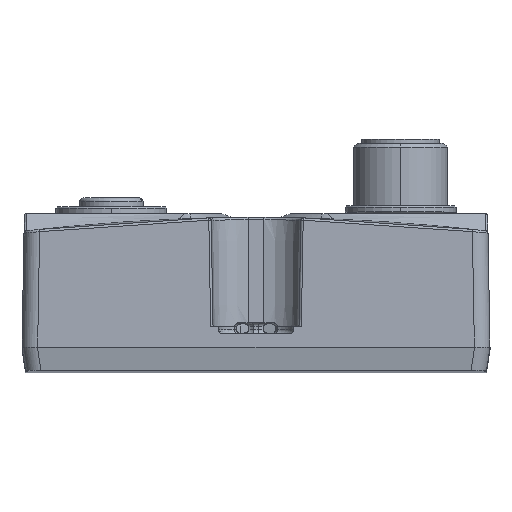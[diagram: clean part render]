
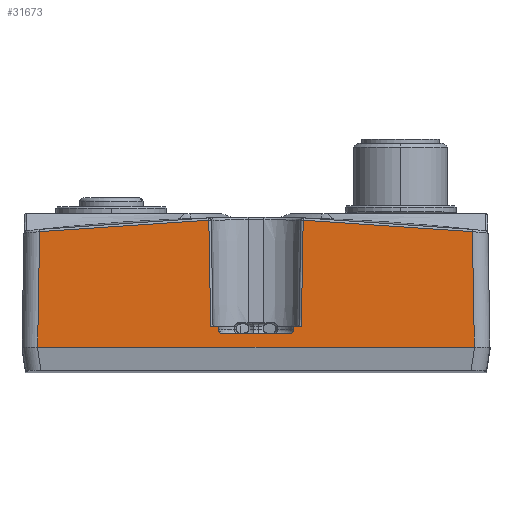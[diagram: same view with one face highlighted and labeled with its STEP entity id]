
A CAD part, top view. The second image highlights one B-rep face of the part: STEP entity #31673.
In plain terms, the highlighted planar face has unit normal (0, 0.018, 1).
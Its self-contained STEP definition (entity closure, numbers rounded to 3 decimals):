
#1816=CARTESIAN_POINT('',(27.691,-2.335,14.69));
#1854=CARTESIAN_POINT('',(5.8,-14.5,14.903));
#2453=CARTESIAN_POINT('',(27.691,-2.335,14.69));
#2454=CARTESIAN_POINT('',(25.893,-2.134,14.687));
#2455=CARTESIAN_POINT('',(22.293,-1.772,14.68));
#2456=CARTESIAN_POINT('',(16.881,-1.346,14.673));
#2457=CARTESIAN_POINT('',(11.462,-1.038,14.668));
#2458=CARTESIAN_POINT('',(7.846,-0.912,
14.665));
#2459=CARTESIAN_POINT('',(6.038,-0.868,
14.665));
#2464=DIRECTION('',(-0.017,1.,-0.017));
#2465=VECTOR('',#2464,14.77);
#2466=CARTESIAN_POINT('',(27.948,-17.1,14.948));
#2467=LINE('',#2466,#2465);
#2471=DIRECTION('',(-0.017,-1.,0.017));
#2472=VECTOR('',#2471,14.77);
#2473=CARTESIAN_POINT('',(-27.691,-2.335,
14.69));
#2474=LINE('',#2473,#2472);
#2478=CARTESIAN_POINT('',(-6.038,-0.868,
14.665));
#2479=CARTESIAN_POINT('',(-7.846,-0.912,
14.665));
#2480=CARTESIAN_POINT('',(-11.462,-1.038,
14.668));
#2481=CARTESIAN_POINT('',(-16.881,-1.346,
14.673));
#2482=CARTESIAN_POINT('',(-22.293,-1.772,
14.68));
#2483=CARTESIAN_POINT('',(-25.893,-2.134,
14.687));
#2484=CARTESIAN_POINT('',(-27.691,-2.335,
14.69));
#2489=DIRECTION('',(-0.017,1.,-0.017));
#2490=VECTOR('',#2489,13.636);
#2491=CARTESIAN_POINT('',(-5.8,-14.5,
14.903));
#2492=LINE('',#2491,#2490);
#2496=DIRECTION('',(-1.,0.,0.));
#2497=VECTOR('',#2496,1.);
#2498=CARTESIAN_POINT('',(-4.8,-14.5,14.903));
#2499=LINE('',#2498,#2497);
#2503=CARTESIAN_POINT('',(-4.654,-15.254,
14.916));
#2504=CARTESIAN_POINT('',(-4.702,-15.205,
14.915));
#2505=CARTESIAN_POINT('',(-4.773,-15.096,
14.913));
#2506=CARTESIAN_POINT('',(-4.8,-14.969,14.911));
#2507=CARTESIAN_POINT('',(-4.8,-14.9,14.91));
#2512=CARTESIAN_POINT('',(-4.3,-15.4,14.918));
#2513=CARTESIAN_POINT('',(-4.369,-15.4,14.918));
#2514=CARTESIAN_POINT('',(-4.496,-15.373,
14.918));
#2515=CARTESIAN_POINT('',(-4.605,-15.302,
14.917));
#2516=CARTESIAN_POINT('',(-4.654,-15.254,
14.916));
#2521=CARTESIAN_POINT('',(4.654,-15.254,14.916));
#2522=CARTESIAN_POINT('',(4.605,-15.302,14.917));
#2523=CARTESIAN_POINT('',(4.496,-15.373,14.918));
#2524=CARTESIAN_POINT('',(4.369,-15.4,14.918));
#2525=CARTESIAN_POINT('',(4.3,-15.4,14.918));
#2530=CARTESIAN_POINT('',(4.8,-14.9,14.91));
#2531=CARTESIAN_POINT('',(4.8,-14.969,14.911));
#2532=CARTESIAN_POINT('',(4.773,-15.096,14.913));
#2533=CARTESIAN_POINT('',(4.702,-15.205,14.915));
#2534=CARTESIAN_POINT('',(4.654,-15.254,14.916));
#2539=DIRECTION('',(-1.,0.,0.));
#2540=VECTOR('',#2539,1.);
#2541=CARTESIAN_POINT('',(5.8,-14.5,14.903));
#2542=LINE('',#2541,#2540);
#2546=DIRECTION('',(-0.017,-1.,0.017));
#2547=VECTOR('',#2546,13.636);
#2548=CARTESIAN_POINT('',(6.038,-0.868,
14.665));
#2549=LINE('',#2548,#2547);
#3264=CARTESIAN_POINT('',(-27.691,-2.335,
14.69));
#3337=CARTESIAN_POINT('',(-5.8,-14.5,
14.903));
#3636=DIRECTION('',(1.,0.,0.));
#3637=VECTOR('',#3636,8.6);
#3638=CARTESIAN_POINT('',(-4.3,-15.4,14.918));
#3639=LINE('',#3638,#3637);
#3725=DIRECTION('',(0.,-1.,0.017));
#3726=VECTOR('',#3725,0.4);
#3727=CARTESIAN_POINT('',(-4.8,-14.5,14.903));
#3728=LINE('',#3727,#3726);
#23797=DIRECTION('',(-1.,0.,0.));
#23798=VECTOR('',#23797,55.896);
#23799=CARTESIAN_POINT('',(27.948,-17.1,14.948));
#23800=LINE('',#23799,#23798);
#24878=DIRECTION('',(0.,1.,-0.017));
#24879=VECTOR('',#24878,0.4);
#24880=CARTESIAN_POINT('',(4.8,-14.9,14.91));
#24881=LINE('',#24880,#24879);
#26385=CARTESIAN_POINT('',(-6.038,-0.868,
14.665));
#26387=VERTEX_POINT('',#26385);
#26394=CARTESIAN_POINT('',(6.038,-0.868,
14.665));
#26396=VERTEX_POINT('',#26394);
#26410=VERTEX_POINT('',#1816);
#26413=VERTEX_POINT('',#1854);
#26433=VERTEX_POINT('',#3264);
#26436=VERTEX_POINT('',#3337);
#26448=CARTESIAN_POINT('',(27.948,-17.1,14.948));
#26449=VERTEX_POINT('',#26448);
#26493=CARTESIAN_POINT('',(4.8,-14.5,14.903));
#26494=VERTEX_POINT('',#26493);
#26495=CARTESIAN_POINT('',(4.8,-14.9,14.91));
#26496=VERTEX_POINT('',#26495);
#26497=VERTEX_POINT('',#2521);
#26498=VERTEX_POINT('',#2525);
#26499=CARTESIAN_POINT('',(-4.3,-15.4,14.918));
#26500=VERTEX_POINT('',#26499);
#26501=VERTEX_POINT('',#2503);
#26502=VERTEX_POINT('',#2507);
#26503=CARTESIAN_POINT('',(-4.8,-14.5,14.903));
#26504=VERTEX_POINT('',#26503);
#26505=CARTESIAN_POINT('',(-27.948,-17.1,14.948));
#26506=VERTEX_POINT('',#26505);
#31639=CARTESIAN_POINT('',(0.,-17.1,14.948));
#31640=DIRECTION('',(0.,0.017,1.));
#31641=DIRECTION('',(1.,0.,0.));
#31642=AXIS2_PLACEMENT_3D('',#31639,#31640,#31641);
#31643=PLANE('',#31642);
#31644=ORIENTED_EDGE('',*,*,#30990,.F.);
#31646=ORIENTED_EDGE('',*,*,#31645,.F.);
#31648=ORIENTED_EDGE('',*,*,#31647,.T.);
#31650=ORIENTED_EDGE('',*,*,#31649,.F.);
#31652=ORIENTED_EDGE('',*,*,#31651,.F.);
#31654=ORIENTED_EDGE('',*,*,#31653,.F.);
#31656=ORIENTED_EDGE('',*,*,#31655,.F.);
#31658=ORIENTED_EDGE('',*,*,#31657,.T.);
#31660=ORIENTED_EDGE('',*,*,#31659,.F.);
#31662=ORIENTED_EDGE('',*,*,#31661,.F.);
#31664=ORIENTED_EDGE('',*,*,#31663,.T.);
#31665=ORIENTED_EDGE('',*,*,#31626,.F.);
#31666=ORIENTED_EDGE('',*,*,#31634,.F.);
#31668=ORIENTED_EDGE('',*,*,#31667,.T.);
#31669=ORIENTED_EDGE('',*,*,#31035,.F.);
#31670=ORIENTED_EDGE('',*,*,#31018,.F.);
#31671=EDGE_LOOP('',(#31644,#31646,#31648,#31650,#31652,#31654,#31656,#31658,
#31660,#31662,#31664,#31665,#31666,#31668,#31669,#31670));
#31672=FACE_OUTER_BOUND('',#31671,.F.);
#31673=ADVANCED_FACE('',(#31672),#31643,.T.);
#2460=B_SPLINE_CURVE_WITH_KNOTS('',3,(#2453,#2454,#2455,#2456,#2457,#2458,
#2459),.UNSPECIFIED.,.F.,.F.,(4,1,1,1,4),(0.,0.25,0.5,0.75,1.),
.UNSPECIFIED.);
#2485=B_SPLINE_CURVE_WITH_KNOTS('',3,(#2478,#2479,#2480,#2481,#2482,#2483,
#2484),.UNSPECIFIED.,.F.,.F.,(4,1,1,1,4),(0.,0.25,0.5,0.75,1.),
.UNSPECIFIED.);
#2508=B_SPLINE_CURVE_WITH_KNOTS('',3,(#2503,#2504,#2505,#2506,#2507),
.UNSPECIFIED.,.F.,.F.,(4,1,4),(0.,0.5,1.),.UNSPECIFIED.);
#2517=B_SPLINE_CURVE_WITH_KNOTS('',3,(#2512,#2513,#2514,#2515,#2516),
.UNSPECIFIED.,.F.,.F.,(4,1,4),(0.,0.5,1.),.UNSPECIFIED.);
#2526=B_SPLINE_CURVE_WITH_KNOTS('',3,(#2521,#2522,#2523,#2524,#2525),
.UNSPECIFIED.,.F.,.F.,(4,1,4),(0.,0.5,1.),.UNSPECIFIED.);
#2535=B_SPLINE_CURVE_WITH_KNOTS('',3,(#2530,#2531,#2532,#2533,#2534),
.UNSPECIFIED.,.F.,.F.,(4,1,4),(0.,0.5,1.),.UNSPECIFIED.);
#30990=EDGE_CURVE('',#26410,#26396,#2460,.T.);
#31018=EDGE_CURVE('',#26396,#26413,#2549,.T.);
#31035=EDGE_CURVE('',#26413,#26494,#2542,.T.);
#31626=EDGE_CURVE('',#26497,#26498,#2526,.T.);
#31634=EDGE_CURVE('',#26496,#26497,#2535,.T.);
#31645=EDGE_CURVE('',#26449,#26410,#2467,.T.);
#31647=EDGE_CURVE('',#26449,#26506,#23800,.T.);
#31649=EDGE_CURVE('',#26433,#26506,#2474,.T.);
#31651=EDGE_CURVE('',#26387,#26433,#2485,.T.);
#31653=EDGE_CURVE('',#26436,#26387,#2492,.T.);
#31655=EDGE_CURVE('',#26504,#26436,#2499,.T.);
#31657=EDGE_CURVE('',#26504,#26502,#3728,.T.);
#31659=EDGE_CURVE('',#26501,#26502,#2508,.T.);
#31661=EDGE_CURVE('',#26500,#26501,#2517,.T.);
#31663=EDGE_CURVE('',#26500,#26498,#3639,.T.);
#31667=EDGE_CURVE('',#26496,#26494,#24881,.T.);
